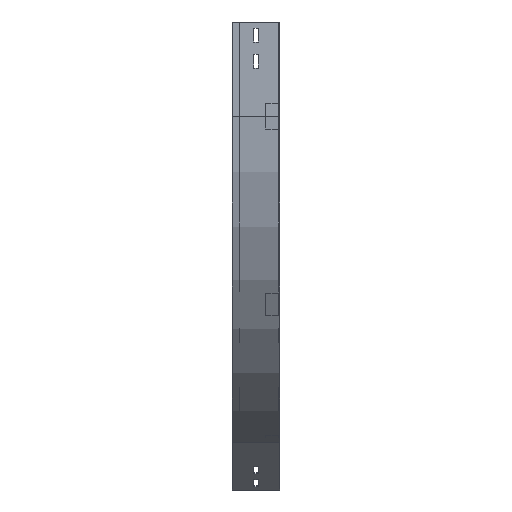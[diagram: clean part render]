
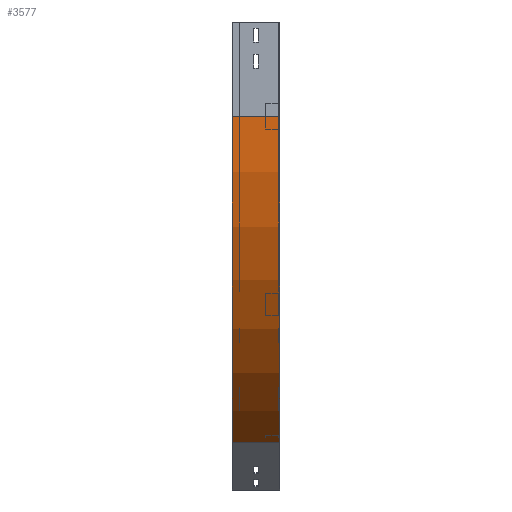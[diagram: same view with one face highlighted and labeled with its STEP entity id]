
A CAD part, left-side view. The second image highlights one B-rep face of the part: STEP entity #3577.
In plain terms, the highlighted cylindrical face has radius 600 mm (diameter 1200 mm), a partial arc.
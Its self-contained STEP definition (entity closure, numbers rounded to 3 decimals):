
#120 = CARTESIAN_POINT ( 'NONE',  ( 0., 0., -150. ) ) ;
#159 = ORIENTED_EDGE ( 'NONE', *, *, #795, .T. ) ;
#330 = CYLINDRICAL_SURFACE ( 'NONE', #1825, 600. ) ;
#621 = CIRCLE ( 'NONE', #2545, 600. ) ;
#650 = CIRCLE ( 'NONE', #3021, 600. ) ;
#787 = VERTEX_POINT ( 'NONE', #2680 ) ;
#795 = EDGE_CURVE ( 'NONE', #3524, #787, #621, .T. ) ;
#865 = CARTESIAN_POINT ( 'NONE',  ( 300., 0., -669.615 ) ) ;
#915 = EDGE_CURVE ( 'NONE', #3524, #3195, #1852, .T. ) ;
#922 = ORIENTED_EDGE ( 'NONE', *, *, #915, .F. ) ;
#1171 = DIRECTION ( 'NONE',  ( 0., -1., 0. ) ) ;
#1217 = EDGE_CURVE ( 'NONE', #787, #3816, #3598, .T. ) ;
#1221 = EDGE_LOOP ( 'NONE', ( #2980, #922, #159, #3219 ) ) ;
#1269 = DIRECTION ( 'NONE',  ( 0., -1., 0. ) ) ;
#1476 = VECTOR ( 'NONE', #2384, 1000. ) ;
#1710 = CARTESIAN_POINT ( 'NONE',  ( 300., 0., -669.615 ) ) ;
#1825 = AXIS2_PLACEMENT_3D ( 'NONE', #2677, #2425, #3250 ) ;
#1852 = LINE ( 'NONE', #120, #3052 ) ;
#2110 = CARTESIAN_POINT ( 'NONE',  ( 0., 75., -150. ) ) ;
#2371 = DIRECTION ( 'NONE',  ( -1., 0., 0. ) ) ;
#2384 = DIRECTION ( 'NONE',  ( 0., -1., 0. ) ) ;
#2425 = DIRECTION ( 'NONE',  ( 0., -1., 0. ) ) ;
#2458 = DIRECTION ( 'NONE',  ( -1., 0., 0. ) ) ;
#2545 = AXIS2_PLACEMENT_3D ( 'NONE', #3269, #1171, #2371 ) ;
#2677 = CARTESIAN_POINT ( 'NONE',  ( 600., 0., -150. ) ) ;
#2680 = CARTESIAN_POINT ( 'NONE',  ( 300., 75., -669.615 ) ) ;
#2717 = FACE_OUTER_BOUND ( 'NONE', #1221, .T. ) ;
#2799 = CARTESIAN_POINT ( 'NONE',  ( 600., 0., -150. ) ) ;
#2980 = ORIENTED_EDGE ( 'NONE', *, *, #3700, .F. ) ;
#3021 = AXIS2_PLACEMENT_3D ( 'NONE', #2799, #1269, #2458 ) ;
#3052 = VECTOR ( 'NONE', #3679, 1000. ) ;
#3195 = VERTEX_POINT ( 'NONE', #3569 ) ;
#3219 = ORIENTED_EDGE ( 'NONE', *, *, #1217, .T. ) ;
#3250 = DIRECTION ( 'NONE',  ( 0., 0., -1. ) ) ;
#3269 = CARTESIAN_POINT ( 'NONE',  ( 600., 75., -150. ) ) ;
#3524 = VERTEX_POINT ( 'NONE', #2110 ) ;
#3569 = CARTESIAN_POINT ( 'NONE',  ( 0., 0., -150. ) ) ;
#3577 = ADVANCED_FACE ( 'NONE', ( #2717 ), #330, .T. ) ;
#3598 = LINE ( 'NONE', #865, #1476 ) ;
#3679 = DIRECTION ( 'NONE',  ( 0., -1., 0. ) ) ;
#3700 = EDGE_CURVE ( 'NONE', #3195, #3816, #650, .T. ) ;
#3816 = VERTEX_POINT ( 'NONE', #1710 ) ;
